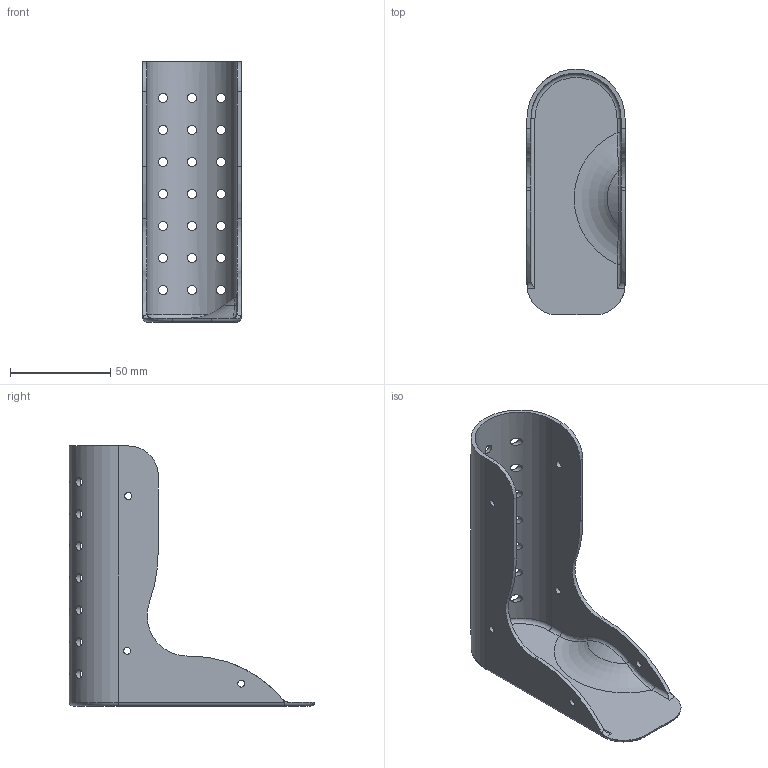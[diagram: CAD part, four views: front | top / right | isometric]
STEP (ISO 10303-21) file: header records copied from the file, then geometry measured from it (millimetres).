
FILE_DESCRIPTION(/* description */ (''),/* implementation_level */ '2;1');
FILE_NAME(/* name */ 'AFO size s right foot.step',/* time_stamp */ '2025-11-06T11:17:35+01:00',/* author */ (''),/* organization */ (''),/* preprocessor_version */ 'ST-DEVELOPER v20.1',/* originating_system */ 'Autodesk Translation Framework v14.17.0.0',/* authorisation */ '');
FILE_SCHEMA (('AUTOMOTIVE_DESIGN { 1 0 10303 214 3 1 1 }'));
Length unit declared in the file: millimetre
Products named in the file (1): 2025-10-02-12-56-12-317
Bounding box: 49 x 122.7 x 130 mm (x, y, z)
Volume: 43465.6 mm3; surface area: 44412 mm2
Topology: 1 solids, 1 shells, 74 faces, 280 edges, 207 vertices
Faces by surface type: cylinder 46, plane 11, torus 9, bspline 6, sphere 2
Full cylindrical faces by diameter (mm): 3.5 x6, 4.5 x21
Entity records: 4765 total; most frequent: CARTESIAN_POINT 2445, ORIENTED_EDGE 560, DIRECTION 345, EDGE_CURVE 280, VERTEX_POINT 207, B_SPLINE_CURVE_WITH_KNOTS 140, AXIS2_PLACEMENT_3D 136, EDGE_LOOP 127
